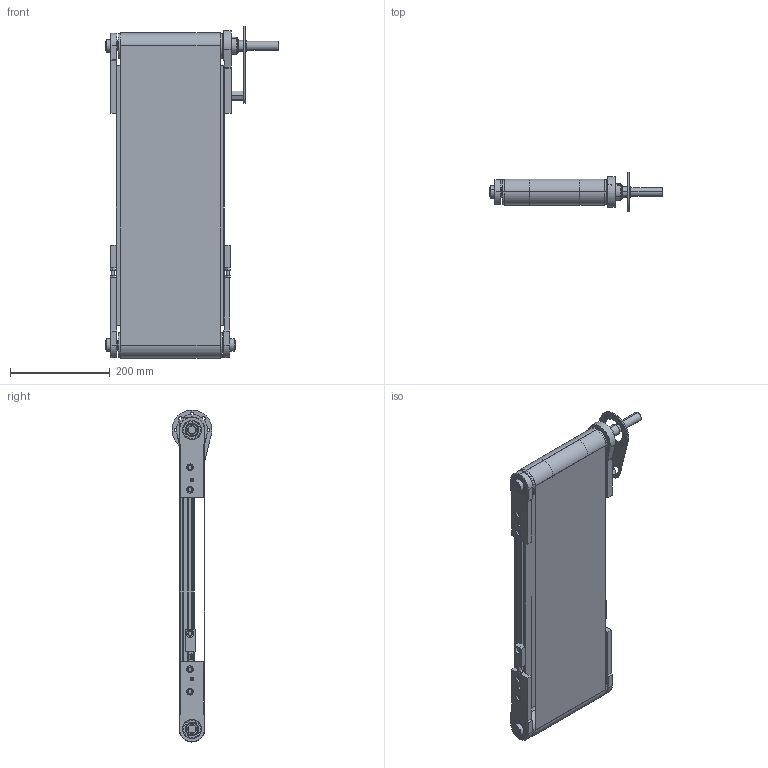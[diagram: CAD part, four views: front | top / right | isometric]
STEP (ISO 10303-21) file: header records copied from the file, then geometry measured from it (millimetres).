
FILE_DESCRIPTION (( 'STEP AP203' ), '1' );
FILE_NAME ('1000.50.44.STEP', '2018-03-12T15:34:33', ( '' ), ( '' ), 'SwSTEP 2.0', 'SolidWorks 2016', '' );
FILE_SCHEMA (( 'CONFIG_CONTROL_DESIGN' ));
Length unit declared in the file: millimetre
Products named in the file (13): 084.802.008; 084.807.005; 1000.50.00.013; 084.802.017_084.802.017; 1000.50.00.006_1000.50.00.004; 1000.50.44_TAPPETO; 1000.50.00.005_1000.50.00.004; 084.802.034_084.802.034; 084.802.027; 1000.50.44_TELAIO_Default<A macchina>; 1000.50.44; 1000.50.00.003-1_1000.50.00.002; 1000.50.00.012
Assembly tree (16 placements, depth 2):
  1000.50.44
    1000.50.44_TELAIO_Default<A macchina>
    1000.50.00.006_1000.50.00.004  x2
    1000.50.00.005_1000.50.00.004
    084.802.008  x2
    1000.50.00.012
    084.802.017_084.802.017  x3
    1000.50.00.013
    084.807.005
    1000.50.44_TAPPETO
    084.802.027
    1000.50.00.003-1_1000.50.00.002
    084.802.034_084.802.034
Bounding box: 348 x 80 x 666 mm (x, y, z)
Volume: 2155871.8 mm3; surface area: 1485563.1 mm2
Topology: 29 solids, 32 shells, 748 faces, 1916 edges, 1232 vertices
Faces by surface type: plane 357, cylinder 284, cone 50, torus 40, sphere 17
Entity records: 19104 total; most frequent: CARTESIAN_POINT 3434, DIRECTION 3099, ORIENTED_EDGE 2862, EDGE_CURVE 1431, AXIS2_PLACEMENT_3D 1139, VERTEX_POINT 930, VECTOR 821, LINE 821
